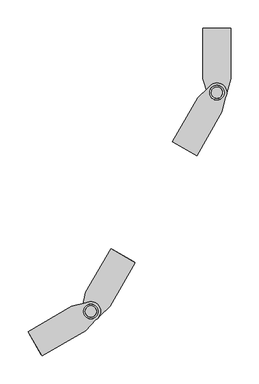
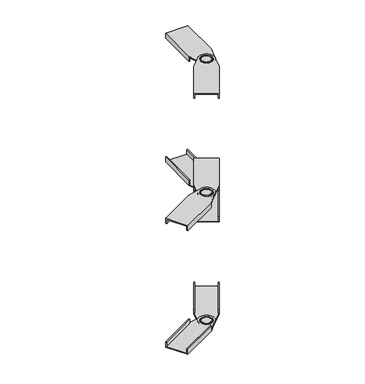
"""IFC4 building model written with IfcOpenShell, lengths in millimetres: cable carrier fitting geometry, BAKS_LD_BEND_Adjustable vertical bend_LPD : LPDC_H45."""

from ifc_helpers import new_model, si_unit, frame, origin, place, context, project, spatial, polyline, circle_curve, source, transform, mapped, element, save
from ifc_brep_helpers import plane_surface, cylinder_surface, revolved_surface, advanced_brep


def cable_carrier_fitting_33a5f9b6(model_context):
    return source(origin(), model_context, "Body", "AdvancedBrep", [
        advanced_brep(
        [(-79.1506351, 527.6185103, -152.0), (-34.1506351, 605.5607966, -152.0), (-15.1554446, 623.4614317, -152.0), (15.1554446, 605.9614317, -152.0), (9.1506351, 580.5607966, -152.0), (-35.8493649, 502.6185103, -152.0), (6.5, 625.969762, -152.0), (-6.5, 603.4531015, -152.0), (9.1506351, 580.5607966, -150.0), (15.1554446, 605.9614317, -150.0), (-15.1554446, 623.4614317, -150.0), (-34.1506351, 605.5607966, -150.0), (-31.9855716, 604.3107966, -150.0), (-76.9855716, 526.3685103, -150.0), (-38.0144284, 503.8685103, -150.0), (6.9855716, 581.8107966, -150.0), (-6.5, 603.4531015, -150.0), (6.5, 625.969762, -150.0), (-79.1506351, 527.6185103, -140.0), (-34.1506351, 605.5607966, -140.0), (9.1506351, 580.5607966, -140.0), (-35.8493649, 502.6185103, -140.0), (-38.0144284, 503.8685103, -140.0), (-76.9855716, 526.3685103, -140.0), (6.9855716, 581.8107966, -140.0), (-31.9855716, 604.3107966, -140.0)],
        [
            (0, 1),
            (1, 2),
            (2, 3, circle_curve(frame((0.0, 614.7114317, -152.0), z_axis=(0.0, 0.0, -1.0), x_axis=(-0.49999999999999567, -0.8660254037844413, 0.0)), 17.5)),
            (3, 4),
            (4, 5),
            (5, 0),
            (6, 7, circle_curve(frame((0.0, 614.7114317, -152.0), z_axis=(0.0, 0.0, 1.0), x_axis=(-0.49999999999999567, -0.8660254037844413, 0.0)), 13.0)),
            (7, 6, circle_curve(frame((0.0, 614.7114317, -152.0), z_axis=(0.0, 0.0, 1.0), x_axis=(-0.49999999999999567, -0.8660254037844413, 0.0)), 13.0)),
            (8, 9),
            (9, 10, circle_curve(frame((0.0, 614.7114317, -150.0), z_axis=(0.0, 0.0, 1.0), x_axis=(-0.49999999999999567, -0.8660254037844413, 0.0)), 17.5)),
            (10, 11),
            (11, 12),
            (12, 13),
            (13, 14),
            (14, 15),
            (15, 8),
            (16, 17, circle_curve(frame((0.0, 614.7114317, -150.0), z_axis=(0.0, 0.0, -1.0), x_axis=(-0.49999999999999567, -0.8660254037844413, 0.0)), 13.0)),
            (17, 16, circle_curve(frame((0.0, 614.7114317, -150.0), z_axis=(0.0, 0.0, -1.0), x_axis=(-0.49999999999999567, -0.8660254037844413, 0.0)), 13.0)),
            (0, 18),
            (18, 19),
            (19, 11),
            (11, 1),
            (4, 8),
            (8, 20),
            (20, 21),
            (21, 5),
            (21, 22),
            (22, 14),
            (13, 23),
            (23, 18),
            (6, 17),
            (16, 7),
            (10, 2),
            (9, 3),
            (20, 24),
            (24, 22),
            (24, 15),
            (23, 25),
            (25, 19),
            (25, 12),
        ],
        [
            plane_surface(frame((-34.1506351, 605.5607966, -152.0), z_axis=(0.0, 0.0, -1.0000000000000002), x_axis=(0.49999999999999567, 0.8660254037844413, 0.0))),
            plane_surface(frame((-34.1506351, 605.5607966, -150.0), z_axis=(0.0, 0.0, 1.0000000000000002), x_axis=(-0.49999999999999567, -0.8660254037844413, 0.0))),
            plane_surface(frame((-79.1506351, 527.6185103, -152.0), z_axis=(-0.8660254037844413, 0.49999999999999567, 0.0), x_axis=(0.0, 0.0, 1.0))),
            plane_surface(frame((9.1506351, 580.5607966, -152.0), z_axis=(0.8660254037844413, -0.49999999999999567, 0.0), x_axis=(0.0, 0.0, 1.0))),
            plane_surface(frame((-35.8493649, 502.6185103, -152.0), z_axis=(-0.49999999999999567, -0.8660254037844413, 0.0), x_axis=(0.0, 0.0, 1.0))),
            revolved_surface(polyline([(-6.499999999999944, 603.4531014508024, -152.0), (-6.499999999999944, 603.4531014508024, -150.0)]), (0.0, 614.7114317, -150.0), (0.0, 0.0, -1.0)),
            plane_surface(frame((-34.1506351, 605.5607966, -152.0), z_axis=(-0.685827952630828, 0.7277637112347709, 0.0), x_axis=(0.0, 0.0, 1.0))),
            cylinder_surface(frame((0.0, 614.7114317, -150.0), z_axis=(0.0, 0.0, -1.0), x_axis=(-0.49999999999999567, -0.8660254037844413, 0.0)), 17.5),
            plane_surface(frame((15.1554446, 605.9614317, -152.0), z_axis=(0.9731758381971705, -0.23006257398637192, 0.0), x_axis=(0.0, 0.0, 1.0))),
            plane_surface(frame((6.9855716, 581.8107966, -140.0), z_axis=(0.0, 0.0, 1.0000000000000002), x_axis=(-0.49999999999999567, -0.8660254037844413, 0.0))),
            plane_surface(frame((-38.0144284, 503.8685103, -150.0), z_axis=(-0.8660254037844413, 0.49999999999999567, 0.0), x_axis=(0.0, 0.0, 1.0))),
            plane_surface(frame((6.9855716, 581.8107966, -150.0), z_axis=(0.49999999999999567, 0.8660254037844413, 0.0), x_axis=(0.0, 0.0, 1.0))),
            plane_surface(frame((-34.1506351, 605.5607966, -140.0), z_axis=(0.0, 0.0, 1.0000000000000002), x_axis=(-0.49999999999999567, -0.8660254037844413, 0.0))),
            plane_surface(frame((-34.1506351, 605.5607966, -150.0), z_axis=(0.49999999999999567, 0.8660254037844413, 0.0), x_axis=(0.0, 0.0, 1.0))),
            plane_surface(frame((-31.9855716, 604.3107966, -150.0), z_axis=(0.8660254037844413, -0.49999999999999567, 0.0), x_axis=(0.0, 0.0, 1.0))),
        ],
        [
            (0, [[1, 2, 3, 4, 5, 6], [7, 8]]),
            (1, [[9, 10, 11, 12, 13, 14, 15, 16], [17, 18]]),
            (2, [[-1, 19, 20, 21, 22]]),
            (3, [[-5, 23, 24, 25, 26]]),
            (4, [[-19, -6, -26, 27, 28, -14, 29, 30]]),
            (5, [[31, -17, 32, -7]]),
            (5, [[-31, -8, -32, -18]]),
            (6, [[-2, -22, -11, 33]]),
            (7, [[-3, -33, -10, 34]]),
            (8, [[-4, -34, -9, -23]]),
            (9, [[-27, -25, 35, 36]]),
            (10, [[-36, 37, -15, -28]]),
            (11, [[-35, -24, -16, -37]]),
            (12, [[-30, 38, 39, -20]]),
            (13, [[-39, 40, -12, -21]]),
            (14, [[-38, -29, -13, -40]]),
        ],
    ),
        advanced_brep(
        [(5.0, 623.3716857, -152.0), (-5.0, 606.0511777, -152.0), (-5.0, 606.0511777, -150.0), (5.0, 623.3716857, -150.0)],
        [
            (0, 1, circle_curve(frame((0.0, 614.7114317, -152.0), z_axis=(0.0, 0.0, -1.0), x_axis=(-0.49999999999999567, -0.8660254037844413, 0.0)), 10.0)),
            (1, 0, circle_curve(frame((0.0, 614.7114317, -152.0), z_axis=(0.0, 0.0, -1.0), x_axis=(-0.49999999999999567, -0.8660254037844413, 0.0)), 10.0)),
            (2, 3, circle_curve(frame((0.0, 614.7114317, -150.0), z_axis=(0.0, 0.0, 1.0), x_axis=(-0.49999999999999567, -0.8660254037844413, 0.0)), 10.0)),
            (3, 2, circle_curve(frame((0.0, 614.7114317, -150.0), z_axis=(0.0, 0.0, 1.0), x_axis=(-0.49999999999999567, -0.8660254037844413, 0.0)), 10.0)),
            (0, 3),
            (2, 1),
        ],
        [
            plane_surface(frame((-34.1506351, 605.5607966, -152.0), z_axis=(0.0, 0.0, -1.0000000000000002), x_axis=(0.49999999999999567, 0.8660254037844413, 0.0))),
            plane_surface(frame((-34.1506351, 605.5607966, -150.0), z_axis=(0.0, 0.0, 1.0000000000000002), x_axis=(-0.49999999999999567, -0.8660254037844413, 0.0))),
            cylinder_surface(frame((0.0, 614.7114317, -150.0), z_axis=(0.0, 0.0, 1.0), x_axis=(-0.49999999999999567, -0.8660254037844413, 0.0)), 10.0),
        ],
        [
            (0, [[1, 2]]),
            (1, [[3, 4]]),
            (2, [[5, -3, 6, -1]]),
            (2, [[-5, -2, -6, -4]]),
        ],
    ),
        advanced_brep(
        [(-25.0, 729.7114317, -152.0), (25.0, 729.7114317, -152.0), (25.0, 639.7114317, -152.0), (17.5, 614.7114317, -152.0), (-17.5, 614.7114317, -152.0), (-25.0, 639.7114317, -152.0), (0.0, 601.7114317, -152.0), (0.0, 627.7114317, -152.0), (25.0, 639.7114317, -150.0), (22.5, 639.7114317, -150.0), (22.5, 729.7114317, -150.0), (-22.5, 729.7114317, -150.0), (-22.5, 639.7114317, -150.0), (-25.0, 639.7114317, -150.0), (-17.5, 614.7114317, -150.0), (17.5, 614.7114317, -150.0), (0.0, 627.7114317, -150.0), (0.0, 601.7114317, -150.0), (-25.0, 639.7114317, -140.0), (-25.0, 729.7114317, -140.0), (25.0, 729.7114317, -140.0), (25.0, 639.7114317, -140.0), (-22.5, 729.7114317, -140.0), (22.5, 729.7114317, -140.0), (22.5, 639.7114317, -140.0), (-22.5, 639.7114317, -140.0)],
        [
            (0, 1),
            (1, 2),
            (2, 3),
            (3, 4, circle_curve(frame((0.0, 614.7114317, -152.0), z_axis=(0.0, 0.0, -1.0), x_axis=(0.0, 1.0000000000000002, 0.0)), 17.5)),
            (4, 5),
            (5, 0),
            (6, 7, circle_curve(frame((0.0, 614.7114317, -152.0), z_axis=(0.0, 0.0, 1.0), x_axis=(0.0, 1.0000000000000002, 0.0)), 13.0)),
            (7, 6, circle_curve(frame((0.0, 614.7114317, -152.0), z_axis=(0.0, 0.0, 1.0), x_axis=(0.0, 1.0000000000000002, 0.0)), 13.0)),
            (8, 9),
            (9, 10),
            (10, 11),
            (11, 12),
            (12, 13),
            (13, 14),
            (14, 15, circle_curve(frame((0.0, 614.7114317, -150.0), z_axis=(0.0, 0.0, 1.0), x_axis=(0.0, 1.0000000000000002, 0.0)), 17.5)),
            (15, 8),
            (16, 17, circle_curve(frame((0.0, 614.7114317, -150.0), z_axis=(0.0, 0.0, -1.0), x_axis=(0.0, 1.0000000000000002, 0.0)), 13.0)),
            (17, 16, circle_curve(frame((0.0, 614.7114317, -150.0), z_axis=(0.0, 0.0, -1.0), x_axis=(0.0, 1.0000000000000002, 0.0)), 13.0)),
            (5, 13),
            (13, 18),
            (18, 19),
            (19, 0),
            (1, 20),
            (20, 21),
            (21, 8),
            (8, 2),
            (19, 22),
            (22, 11),
            (10, 23),
            (23, 20),
            (7, 16),
            (17, 6),
            (4, 14),
            (3, 15),
            (23, 24),
            (24, 21),
            (9, 24),
            (18, 25),
            (25, 22),
            (12, 25),
        ],
        [
            plane_surface(frame((-25.0, 639.7114317, -152.0), z_axis=(0.0, 0.0, -1.0), x_axis=(0.0, -1.0, 0.0))),
            plane_surface(frame((-25.0, 639.7114317, -150.0), z_axis=(0.0, 0.0, 1.0), x_axis=(0.0, 1.0, 0.0))),
            plane_surface(frame((-25.0, 729.7114317, -152.0), z_axis=(-1.0, 0.0, 0.0), x_axis=(0.0, 0.0, 1.0))),
            plane_surface(frame((25.0, 639.7114317, -152.0), z_axis=(1.0, 0.0, 0.0), x_axis=(0.0, 0.0, 1.0))),
            plane_surface(frame((25.0, 729.7114317, -152.0), z_axis=(0.0, 1.0, 0.0), x_axis=(0.0, 0.0, 1.0))),
            revolved_surface(polyline([(0.0, 627.7114317, -152.0), (0.0, 627.7114317, -150.0)]), (0.0, 614.7114317, -150.0), (0.0, 0.0, -1.0)),
            plane_surface(frame((-25.0, 639.7114317, -152.0), z_axis=(-0.957826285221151, -0.2873478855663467, 0.0), x_axis=(0.0, 0.0, 1.0))),
            cylinder_surface(frame((0.0, 614.7114317, -150.0), z_axis=(0.0, 0.0, -1.0), x_axis=(0.0, 1.0000000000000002, 0.0)), 17.5),
            plane_surface(frame((17.5, 614.7114317, -152.0), z_axis=(0.9578262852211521, -0.28734788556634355, 0.0), x_axis=(0.0, 0.0, 1.0))),
            plane_surface(frame((22.5, 639.7114317, -140.0), z_axis=(0.0, 0.0, 1.0), x_axis=(0.0, 1.0, 0.0))),
            plane_surface(frame((22.5, 729.7114317, -150.0), z_axis=(-1.0, 0.0, 0.0), x_axis=(0.0, 0.0, 1.0))),
            plane_surface(frame((22.5, 639.7114317, -150.0), z_axis=(0.0, -1.0, 0.0), x_axis=(0.0, 0.0, 1.0))),
            plane_surface(frame((-25.0, 639.7114317, -140.0), z_axis=(0.0, 0.0, 1.0), x_axis=(0.0, 1.0, 0.0))),
            plane_surface(frame((-25.0, 639.7114317, -150.0), z_axis=(0.0, -1.0, 0.0), x_axis=(0.0, 0.0, 1.0))),
            plane_surface(frame((-22.5, 639.7114317, -150.0), z_axis=(1.0, 0.0, 0.0), x_axis=(0.0, 0.0, 1.0))),
        ],
        [
            (0, [[1, 2, 3, 4, 5, 6], [7, 8]]),
            (1, [[9, 10, 11, 12, 13, 14, 15, 16], [17, 18]]),
            (2, [[19, 20, 21, 22, -6]]),
            (3, [[23, 24, 25, 26, -2]]),
            (4, [[27, 28, -11, 29, 30, -23, -1, -22]]),
            (5, [[-8, 31, -18, 32]]),
            (5, [[-17, -31, -7, -32]]),
            (6, [[33, -14, -19, -5]]),
            (7, [[34, -15, -33, -4]]),
            (8, [[-26, -16, -34, -3]]),
            (9, [[35, 36, -24, -30]]),
            (10, [[-29, -10, 37, -35]]),
            (11, [[-37, -9, -25, -36]]),
            (12, [[-21, 38, 39, -27]]),
            (13, [[-20, -13, 40, -38]]),
            (14, [[-40, -12, -28, -39]]),
        ],
    ),
        advanced_brep(
        [(0.0, 604.7114317, -152.0), (0.0, 624.7114317, -152.0), (0.0, 624.7114317, -150.0), (0.0, 604.7114317, -150.0)],
        [
            (0, 1, circle_curve(frame((0.0, 614.7114317, -152.0), z_axis=(0.0, 0.0, -1.0), x_axis=(0.0, 1.0000000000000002, 0.0)), 10.0)),
            (1, 0, circle_curve(frame((0.0, 614.7114317, -152.0), z_axis=(0.0, 0.0, -1.0), x_axis=(0.0, 1.0000000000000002, 0.0)), 10.0)),
            (2, 3, circle_curve(frame((0.0, 614.7114317, -150.0), z_axis=(0.0, 0.0, 1.0), x_axis=(0.0, 1.0000000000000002, 0.0)), 10.0)),
            (3, 2, circle_curve(frame((0.0, 614.7114317, -150.0), z_axis=(0.0, 0.0, 1.0), x_axis=(0.0, 1.0000000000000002, 0.0)), 10.0)),
            (1, 2),
            (3, 0),
        ],
        [
            plane_surface(frame((-25.0, 639.7114317, -152.0), z_axis=(0.0, 0.0, -1.0), x_axis=(0.0, -1.0, 0.0))),
            plane_surface(frame((-25.0, 639.7114317, -150.0), z_axis=(0.0, 0.0, 1.0), x_axis=(0.0, 1.0, 0.0))),
            cylinder_surface(frame((0.0, 614.7114317, -150.0), z_axis=(0.0, 0.0, 1.0), x_axis=(0.0, 1.0000000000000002, 0.0)), 10.0),
        ],
        [
            (0, [[1, 2]]),
            (1, [[3, 4]]),
            (2, [[-2, 5, -4, 6]]),
            (2, [[-3, -5, -1, -6]]),
        ],
    ),
        advanced_brep(
        [(-79.1506351, 527.6185103, 152.0), (-35.8493649, 502.6185103, 152.0), (9.1506351, 580.5607966, 152.0), (15.1554446, 605.9614317, 152.0), (-15.1554446, 623.4614317, 152.0), (-34.1506351, 605.5607966, 152.0), (6.5, 625.969762, 152.0), (-6.5, 603.4531015, 152.0), (9.1506351, 580.5607966, 150.0), (6.9855716, 581.8107966, 150.0), (-38.0144284, 503.8685103, 150.0), (-76.9855716, 526.3685103, 150.0), (-31.9855716, 604.3107966, 150.0), (-34.1506351, 605.5607966, 150.0), (-15.1554446, 623.4614317, 150.0), (15.1554446, 605.9614317, 150.0), (-6.5, 603.4531015, 150.0), (6.5, 625.969762, 150.0), (-34.1506351, 605.5607966, 140.0), (-79.1506351, 527.6185103, 140.0), (-35.8493649, 502.6185103, 140.0), (9.1506351, 580.5607966, 140.0), (-76.9855716, 526.3685103, 140.0), (-38.0144284, 503.8685103, 140.0), (6.9855716, 581.8107966, 140.0), (-31.9855716, 604.3107966, 140.0)],
        [
            (0, 1),
            (1, 2),
            (2, 3),
            (3, 4, circle_curve(frame((0.0, 614.7114317, 152.0), z_axis=(0.0, 0.0, 1.0), x_axis=(-0.4999999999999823, -0.8660254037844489, 0.0)), 17.5)),
            (4, 5),
            (5, 0),
            (6, 7, circle_curve(frame((0.0, 614.7114317, 152.0), z_axis=(0.0, 0.0, -1.0), x_axis=(-0.4999999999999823, -0.8660254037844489, 0.0)), 13.0)),
            (7, 6, circle_curve(frame((0.0, 614.7114317, 152.0), z_axis=(0.0, 0.0, -1.0), x_axis=(-0.4999999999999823, -0.8660254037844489, 0.0)), 13.0)),
            (8, 9),
            (9, 10),
            (10, 11),
            (11, 12),
            (12, 13),
            (13, 14),
            (14, 15, circle_curve(frame((0.0, 614.7114317, 150.0), z_axis=(0.0, 0.0, -1.0), x_axis=(-0.4999999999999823, -0.8660254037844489, 0.0)), 17.5)),
            (15, 8),
            (16, 17, circle_curve(frame((0.0, 614.7114317, 150.0), z_axis=(0.0, 0.0, 1.0), x_axis=(-0.4999999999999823, -0.8660254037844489, 0.0)), 13.0)),
            (17, 16, circle_curve(frame((0.0, 614.7114317, 150.0), z_axis=(0.0, 0.0, 1.0), x_axis=(-0.4999999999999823, -0.8660254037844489, 0.0)), 13.0)),
            (5, 13),
            (13, 18),
            (18, 19),
            (19, 0),
            (1, 20),
            (20, 21),
            (21, 8),
            (8, 2),
            (19, 22),
            (22, 11),
            (10, 23),
            (23, 20),
            (7, 16),
            (17, 6),
            (4, 14),
            (3, 15),
            (23, 24),
            (24, 21),
            (9, 24),
            (18, 25),
            (25, 22),
            (12, 25),
        ],
        [
            plane_surface(frame((-34.1506351, 605.5607966, 152.0), z_axis=(0.0, 0.0, 1.0), x_axis=(0.4999999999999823, 0.8660254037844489, 0.0))),
            plane_surface(frame((-34.1506351, 605.5607966, 150.0), z_axis=(0.0, 0.0, -1.0), x_axis=(-0.4999999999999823, -0.8660254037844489, 0.0))),
            plane_surface(frame((-79.1506351, 527.6185103, 152.0), z_axis=(-0.8660254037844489, 0.4999999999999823, 0.0), x_axis=(0.0, 0.0, -1.0))),
            plane_surface(frame((9.1506351, 580.5607966, 152.0), z_axis=(0.8660254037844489, -0.4999999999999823, 0.0), x_axis=(0.0, 0.0, -1.0))),
            plane_surface(frame((-35.8493649, 502.6185103, 152.0), z_axis=(-0.4999999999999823, -0.8660254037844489, 0.0), x_axis=(0.0, 0.0, -1.0))),
            revolved_surface(polyline([(-6.49999999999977, 603.4531014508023, 152.0), (-6.49999999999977, 603.4531014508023, 150.0)]), (0.0, 614.7114317, 150.0), (0.0, 0.0, 1.0)),
            plane_surface(frame((-34.1506351, 605.5607966, 152.0), z_axis=(-0.6858279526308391, 0.7277637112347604, 0.0), x_axis=(0.0, 0.0, -1.0))),
            cylinder_surface(frame((0.0, 614.7114317, 150.0), z_axis=(0.0, 0.0, 1.0), x_axis=(-0.4999999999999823, -0.8660254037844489, 0.0)), 17.5),
            plane_surface(frame((15.1554446, 605.9614317, 152.0), z_axis=(0.973175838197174, -0.2300625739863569, 0.0), x_axis=(0.0, 0.0, -1.0))),
            plane_surface(frame((6.9855716, 581.8107966, 140.0), z_axis=(0.0, 0.0, -1.0), x_axis=(-0.4999999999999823, -0.8660254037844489, 0.0))),
            plane_surface(frame((-38.0144284, 503.8685103, 150.0), z_axis=(-0.8660254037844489, 0.4999999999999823, 0.0), x_axis=(0.0, 0.0, -1.0))),
            plane_surface(frame((6.9855716, 581.8107966, 150.0), z_axis=(0.4999999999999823, 0.8660254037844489, 0.0), x_axis=(0.0, 0.0, -1.0))),
            plane_surface(frame((-34.1506351, 605.5607966, 140.0), z_axis=(0.0, 0.0, -1.0), x_axis=(-0.4999999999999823, -0.8660254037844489, 0.0))),
            plane_surface(frame((-34.1506351, 605.5607966, 150.0), z_axis=(0.4999999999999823, 0.8660254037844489, 0.0), x_axis=(0.0, 0.0, -1.0))),
            plane_surface(frame((-31.9855716, 604.3107966, 150.0), z_axis=(0.8660254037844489, -0.4999999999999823, 0.0), x_axis=(0.0, 0.0, -1.0))),
        ],
        [
            (0, [[1, 2, 3, 4, 5, 6], [7, 8]]),
            (1, [[9, 10, 11, 12, 13, 14, 15, 16], [17, 18]]),
            (2, [[19, 20, 21, 22, -6]]),
            (3, [[23, 24, 25, 26, -2]]),
            (4, [[27, 28, -11, 29, 30, -23, -1, -22]]),
            (5, [[-8, 31, -18, 32]]),
            (5, [[-17, -31, -7, -32]]),
            (6, [[33, -14, -19, -5]]),
            (7, [[34, -15, -33, -4]]),
            (8, [[-26, -16, -34, -3]]),
            (9, [[35, 36, -24, -30]]),
            (10, [[-29, -10, 37, -35]]),
            (11, [[-37, -9, -25, -36]]),
            (12, [[-21, 38, 39, -27]]),
            (13, [[-20, -13, 40, -38]]),
            (14, [[-40, -12, -28, -39]]),
        ],
    ),
        advanced_brep(
        [(5.0, 623.3716857, 152.0), (-5.0, 606.0511777, 152.0), (-5.0, 606.0511777, 150.0), (5.0, 623.3716857, 150.0)],
        [
            (0, 1, circle_curve(frame((0.0, 614.7114317, 152.0), z_axis=(0.0, 0.0, 1.0), x_axis=(-0.4999999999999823, -0.8660254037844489, 0.0)), 10.0)),
            (1, 0, circle_curve(frame((0.0, 614.7114317, 152.0), z_axis=(0.0, 0.0, 1.0), x_axis=(-0.4999999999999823, -0.8660254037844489, 0.0)), 10.0)),
            (2, 3, circle_curve(frame((0.0, 614.7114317, 150.0), z_axis=(0.0, 0.0, -1.0), x_axis=(-0.4999999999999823, -0.8660254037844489, 0.0)), 10.0)),
            (3, 2, circle_curve(frame((0.0, 614.7114317, 150.0), z_axis=(0.0, 0.0, -1.0), x_axis=(-0.4999999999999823, -0.8660254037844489, 0.0)), 10.0)),
            (1, 2),
            (3, 0),
        ],
        [
            plane_surface(frame((-34.1506351, 605.5607966, 152.0), z_axis=(0.0, 0.0, 1.0), x_axis=(0.4999999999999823, 0.8660254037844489, 0.0))),
            plane_surface(frame((-34.1506351, 605.5607966, 150.0), z_axis=(0.0, 0.0, -1.0), x_axis=(-0.4999999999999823, -0.8660254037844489, 0.0))),
            cylinder_surface(frame((0.0, 614.7114317, 150.0), z_axis=(0.0, 0.0, -1.0), x_axis=(-0.4999999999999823, -0.8660254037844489, 0.0)), 10.0),
        ],
        [
            (0, [[1, 2]]),
            (1, [[3, 4]]),
            (2, [[-2, 5, -4, 6]]),
            (2, [[-3, -5, -1, -6]]),
        ],
    ),
        advanced_brep(
        [(-25.0, 729.7114317, 152.0), (-25.0, 639.7114317, 152.0), (-17.5, 614.7114317, 152.0), (17.5, 614.7114317, 152.0), (25.0, 639.7114317, 152.0), (25.0, 729.7114317, 152.0), (0.0, 601.7114317, 152.0), (0.0, 627.7114317, 152.0), (25.0, 639.7114317, 150.0), (17.5, 614.7114317, 150.0), (-17.5, 614.7114317, 150.0), (-25.0, 639.7114317, 150.0), (-22.5, 639.7114317, 150.0), (-22.5, 729.7114317, 150.0), (22.5, 729.7114317, 150.0), (22.5, 639.7114317, 150.0), (0.0, 627.7114317, 150.0), (0.0, 601.7114317, 150.0), (-25.0, 729.7114317, 140.0), (-25.0, 639.7114317, 140.0), (25.0, 639.7114317, 140.0), (25.0, 729.7114317, 140.0), (22.5, 729.7114317, 140.0), (-22.5, 729.7114317, 140.0), (22.5, 639.7114317, 140.0), (-22.5, 639.7114317, 140.0)],
        [
            (0, 1),
            (1, 2),
            (2, 3, circle_curve(frame((0.0, 614.7114317, 152.0), z_axis=(0.0, 0.0, 1.0), x_axis=(0.0, 1.0, 0.0)), 17.5)),
            (3, 4),
            (4, 5),
            (5, 0),
            (6, 7, circle_curve(frame((0.0, 614.7114317, 152.0), z_axis=(0.0, 0.0, -1.0), x_axis=(0.0, 1.0, 0.0)), 13.0)),
            (7, 6, circle_curve(frame((0.0, 614.7114317, 152.0), z_axis=(0.0, 0.0, -1.0), x_axis=(0.0, 1.0, 0.0)), 13.0)),
            (8, 9),
            (9, 10, circle_curve(frame((0.0, 614.7114317, 150.0), z_axis=(0.0, 0.0, -1.0), x_axis=(0.0, 1.0, 0.0)), 17.5)),
            (10, 11),
            (11, 12),
            (12, 13),
            (13, 14),
            (14, 15),
            (15, 8),
            (16, 17, circle_curve(frame((0.0, 614.7114317, 150.0), z_axis=(0.0, 0.0, 1.0), x_axis=(0.0, 1.0, 0.0)), 13.0)),
            (17, 16, circle_curve(frame((0.0, 614.7114317, 150.0), z_axis=(0.0, 0.0, 1.0), x_axis=(0.0, 1.0, 0.0)), 13.0)),
            (0, 18),
            (18, 19),
            (19, 11),
            (11, 1),
            (4, 8),
            (8, 20),
            (20, 21),
            (21, 5),
            (21, 22),
            (22, 14),
            (13, 23),
            (23, 18),
            (6, 17),
            (16, 7),
            (10, 2),
            (9, 3),
            (20, 24),
            (24, 22),
            (24, 15),
            (23, 25),
            (25, 19),
            (25, 12),
        ],
        [
            plane_surface(frame((-25.0, 639.7114317, 152.0), z_axis=(0.0, 0.0, 1.0), x_axis=(0.0, -1.0, 0.0))),
            plane_surface(frame((-25.0, 639.7114317, 150.0), z_axis=(0.0, 0.0, -1.0), x_axis=(0.0, 1.0, 0.0))),
            plane_surface(frame((-25.0, 729.7114317, 152.0), z_axis=(-1.0, 0.0, 0.0), x_axis=(0.0, 0.0, -1.0))),
            plane_surface(frame((25.0, 639.7114317, 152.0), z_axis=(1.0, 0.0, 0.0), x_axis=(0.0, 0.0, -1.0))),
            plane_surface(frame((25.0, 729.7114317, 152.0), z_axis=(0.0, 1.0, 0.0), x_axis=(0.0, 0.0, -1.0))),
            revolved_surface(polyline([(0.0, 627.7114317, 152.0), (0.0, 627.7114317, 150.0)]), (0.0, 614.7114317, 150.0), (0.0, 0.0, 1.0)),
            plane_surface(frame((-25.0, 639.7114317, 152.0), z_axis=(-0.9578262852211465, -0.2873478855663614, 0.0), x_axis=(0.0, 0.0, -1.0))),
            cylinder_surface(frame((0.0, 614.7114317, 150.0), z_axis=(0.0, 0.0, 1.0), x_axis=(0.0, 1.0, 0.0)), 17.5),
            plane_surface(frame((17.5, 614.7114317, 152.0), z_axis=(0.9578262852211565, -0.28734788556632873, 0.0), x_axis=(0.0, 0.0, -1.0))),
            plane_surface(frame((22.5, 639.7114317, 140.0), z_axis=(0.0, 0.0, -1.0), x_axis=(0.0, 1.0, 0.0))),
            plane_surface(frame((22.5, 729.7114317, 150.0), z_axis=(-1.0, 0.0, 0.0), x_axis=(0.0, 0.0, -1.0))),
            plane_surface(frame((22.5, 639.7114317, 150.0), z_axis=(0.0, -1.0, 0.0), x_axis=(0.0, 0.0, -1.0))),
            plane_surface(frame((-25.0, 639.7114317, 140.0), z_axis=(0.0, 0.0, -1.0), x_axis=(0.0, 1.0, 0.0))),
            plane_surface(frame((-25.0, 639.7114317, 150.0), z_axis=(0.0, -1.0, 0.0), x_axis=(0.0, 0.0, -1.0))),
            plane_surface(frame((-22.5, 639.7114317, 150.0), z_axis=(1.0, 0.0, 0.0), x_axis=(0.0, 0.0, -1.0))),
        ],
        [
            (0, [[1, 2, 3, 4, 5, 6], [7, 8]]),
            (1, [[9, 10, 11, 12, 13, 14, 15, 16], [17, 18]]),
            (2, [[-1, 19, 20, 21, 22]]),
            (3, [[-5, 23, 24, 25, 26]]),
            (4, [[-19, -6, -26, 27, 28, -14, 29, 30]]),
            (5, [[31, -17, 32, -7]]),
            (5, [[-31, -8, -32, -18]]),
            (6, [[-2, -22, -11, 33]]),
            (7, [[-3, -33, -10, 34]]),
            (8, [[-4, -34, -9, -23]]),
            (9, [[-27, -25, 35, 36]]),
            (10, [[-36, 37, -15, -28]]),
            (11, [[-35, -24, -16, -37]]),
            (12, [[-30, 38, 39, -20]]),
            (13, [[-39, 40, -12, -21]]),
            (14, [[-38, -29, -13, -40]]),
        ],
    ),
        advanced_brep(
        [(0.0, 604.7114317, 152.0), (0.0, 624.7114317, 152.0), (0.0, 624.7114317, 150.0), (0.0, 604.7114317, 150.0)],
        [
            (0, 1, circle_curve(frame((0.0, 614.7114317, 152.0), z_axis=(0.0, 0.0, 1.0), x_axis=(0.0, 1.0, 0.0)), 10.0)),
            (1, 0, circle_curve(frame((0.0, 614.7114317, 152.0), z_axis=(0.0, 0.0, 1.0), x_axis=(0.0, 1.0, 0.0)), 10.0)),
            (2, 3, circle_curve(frame((0.0, 614.7114317, 150.0), z_axis=(0.0, 0.0, -1.0), x_axis=(0.0, 1.0, 0.0)), 10.0)),
            (3, 2, circle_curve(frame((0.0, 614.7114317, 150.0), z_axis=(0.0, 0.0, -1.0), x_axis=(0.0, 1.0, 0.0)), 10.0)),
            (0, 3),
            (2, 1),
        ],
        [
            plane_surface(frame((-25.0, 639.7114317, 152.0), z_axis=(0.0, 0.0, 1.0), x_axis=(0.0, -1.0, 0.0))),
            plane_surface(frame((-25.0, 639.7114317, 150.0), z_axis=(0.0, 0.0, -1.0), x_axis=(0.0, 1.0, 0.0))),
            cylinder_surface(frame((0.0, 614.7114317, 150.0), z_axis=(0.0, 0.0, -1.0), x_axis=(0.0, 1.0, 0.0)), 10.0),
        ],
        [
            (0, [[1, 2]]),
            (1, [[3, 4]]),
            (2, [[5, -3, 6, -1]]),
            (2, [[-5, -2, -6, -4]]),
        ],
    ),
        advanced_brep(
        [(-337.0929214, 189.1506351, -152.0), (-259.1506351, 234.1506351, -152.0), (-233.75, 240.1554446, -152.0), (-216.25, 209.8445554, -152.0), (-234.1506351, 190.8493649, -152.0), (-312.0929214, 145.8493649, -152.0), (-213.7416698, 231.5, -152.0), (-236.2583302, 218.5, -152.0), (-234.1506351, 190.8493649, -150.0), (-216.25, 209.8445554, -150.0), (-233.75, 240.1554446, -150.0), (-259.1506351, 234.1506351, -150.0), (-257.9006351, 231.9855716, -150.0), (-335.8429214, 186.9855716, -150.0), (-313.3429214, 148.0144284, -150.0), (-235.4006351, 193.0144284, -150.0), (-236.2583302, 218.5, -150.0), (-213.7416698, 231.5, -150.0), (-337.0929214, 189.1506351, -140.0), (-259.1506351, 234.1506351, -140.0), (-234.1506351, 190.8493649, -140.0), (-312.0929214, 145.8493649, -140.0), (-313.3429214, 148.0144284, -140.0), (-335.8429214, 186.9855716, -140.0), (-235.4006351, 193.0144284, -140.0), (-257.9006351, 231.9855716, -140.0)],
        [
            (0, 1),
            (1, 2),
            (2, 3, circle_curve(frame((-225.0, 225.0, -152.0), z_axis=(0.0, 0.0, -1.0), x_axis=(-0.8660254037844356, -0.5000000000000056, 0.0)), 17.5)),
            (3, 4),
            (4, 5),
            (5, 0),
            (6, 7, circle_curve(frame((-225.0, 225.0, -152.0), z_axis=(0.0, 0.0, 1.0), x_axis=(-0.8660254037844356, -0.5000000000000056, 0.0)), 13.0)),
            (7, 6, circle_curve(frame((-225.0, 225.0, -152.0), z_axis=(0.0, 0.0, 1.0), x_axis=(-0.8660254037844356, -0.5000000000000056, 0.0)), 13.0)),
            (8, 9),
            (9, 10, circle_curve(frame((-225.0, 225.0, -150.0), z_axis=(0.0, 0.0, 1.0), x_axis=(-0.8660254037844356, -0.5000000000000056, 0.0)), 17.5)),
            (10, 11),
            (11, 12),
            (12, 13),
            (13, 14),
            (14, 15),
            (15, 8),
            (16, 17, circle_curve(frame((-225.0, 225.0, -150.0), z_axis=(0.0, 0.0, -1.0), x_axis=(-0.8660254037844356, -0.5000000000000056, 0.0)), 13.0)),
            (17, 16, circle_curve(frame((-225.0, 225.0, -150.0), z_axis=(0.0, 0.0, -1.0), x_axis=(-0.8660254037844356, -0.5000000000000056, 0.0)), 13.0)),
            (0, 18),
            (18, 19),
            (19, 11),
            (11, 1),
            (4, 8),
            (8, 20),
            (20, 21),
            (21, 5),
            (21, 22),
            (22, 14),
            (13, 23),
            (23, 18),
            (6, 17),
            (16, 7),
            (10, 2),
            (9, 3),
            (20, 24),
            (24, 22),
            (24, 15),
            (23, 25),
            (25, 19),
            (25, 12),
        ],
        [
            plane_surface(frame((-259.1506351, 234.1506351, -152.0), z_axis=(0.0, 0.0, -1.0000000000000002), x_axis=(0.8660254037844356, 0.5000000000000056, 0.0))),
            plane_surface(frame((-259.1506351, 234.1506351, -150.0), z_axis=(0.0, 0.0, 1.0000000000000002), x_axis=(-0.8660254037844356, -0.5000000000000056, 0.0))),
            plane_surface(frame((-337.0929214, 189.1506351, -152.0), z_axis=(-0.5000000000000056, 0.8660254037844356, 0.0), x_axis=(0.0, 0.0, 1.0))),
            plane_surface(frame((-234.1506351, 190.8493649, -152.0), z_axis=(0.5000000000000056, -0.8660254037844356, 0.0), x_axis=(0.0, 0.0, 1.0))),
            plane_surface(frame((-312.0929214, 145.8493649, -152.0), z_axis=(-0.8660254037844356, -0.5000000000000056, 0.0), x_axis=(0.0, 0.0, 1.0))),
            revolved_surface(polyline([(-236.25833024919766, 218.49999999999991, -152.0), (-236.25833024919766, 218.49999999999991, -150.0)]), (-225.0, 225.0, -150.0), (0.0, 0.0, -1.0)),
            plane_surface(frame((-259.1506351, 234.1506351, -152.0), z_axis=(-0.23006257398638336, 0.9731758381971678, 0.0), x_axis=(0.0, 0.0, 1.0))),
            cylinder_surface(frame((-225.0, 225.0, -150.0), z_axis=(0.0, 0.0, -1.0), x_axis=(-0.8660254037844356, -0.5000000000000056, 0.0)), 17.5),
            plane_surface(frame((-216.25, 209.8445554, -152.0), z_axis=(0.727763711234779, -0.6858279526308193, 0.0), x_axis=(0.0, 0.0, 1.0))),
            plane_surface(frame((-235.4006351, 193.0144284, -140.0), z_axis=(0.0, 0.0, 1.0000000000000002), x_axis=(-0.8660254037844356, -0.5000000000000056, 0.0))),
            plane_surface(frame((-313.3429214, 148.0144284, -150.0), z_axis=(-0.5000000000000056, 0.8660254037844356, 0.0), x_axis=(0.0, 0.0, 1.0))),
            plane_surface(frame((-235.4006351, 193.0144284, -150.0), z_axis=(0.8660254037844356, 0.5000000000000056, 0.0), x_axis=(0.0, 0.0, 1.0))),
            plane_surface(frame((-259.1506351, 234.1506351, -140.0), z_axis=(0.0, 0.0, 1.0000000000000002), x_axis=(-0.8660254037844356, -0.5000000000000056, 0.0))),
            plane_surface(frame((-259.1506351, 234.1506351, -150.0), z_axis=(0.8660254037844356, 0.5000000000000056, 0.0), x_axis=(0.0, 0.0, 1.0))),
            plane_surface(frame((-257.9006351, 231.9855716, -150.0), z_axis=(0.5000000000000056, -0.8660254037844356, 0.0), x_axis=(0.0, 0.0, 1.0))),
        ],
        [
            (0, [[1, 2, 3, 4, 5, 6], [7, 8]]),
            (1, [[9, 10, 11, 12, 13, 14, 15, 16], [17, 18]]),
            (2, [[-1, 19, 20, 21, 22]]),
            (3, [[-5, 23, 24, 25, 26]]),
            (4, [[-19, -6, -26, 27, 28, -14, 29, 30]]),
            (5, [[31, -17, 32, -7]]),
            (5, [[-31, -8, -32, -18]]),
            (6, [[-2, -22, -11, 33]]),
            (7, [[-3, -33, -10, 34]]),
            (8, [[-4, -34, -9, -23]]),
            (9, [[-27, -25, 35, 36]]),
            (10, [[-36, 37, -15, -28]]),
            (11, [[-35, -24, -16, -37]]),
            (12, [[-30, 38, 39, -20]]),
            (13, [[-39, 40, -12, -21]]),
            (14, [[-38, -29, -13, -40]]),
        ],
    ),
        advanced_brep(
        [(-216.339746, 230.0, -152.0), (-233.660254, 220.0, -152.0), (-233.660254, 220.0, -150.0), (-216.339746, 230.0, -150.0)],
        [
            (0, 1, circle_curve(frame((-225.0, 225.0, -152.0), z_axis=(0.0, 0.0, -1.0), x_axis=(-0.8660254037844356, -0.5000000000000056, 0.0)), 10.0)),
            (1, 0, circle_curve(frame((-225.0, 225.0, -152.0), z_axis=(0.0, 0.0, -1.0), x_axis=(-0.8660254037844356, -0.5000000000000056, 0.0)), 10.0)),
            (2, 3, circle_curve(frame((-225.0, 225.0, -150.0), z_axis=(0.0, 0.0, 1.0), x_axis=(-0.8660254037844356, -0.5000000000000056, 0.0)), 10.0)),
            (3, 2, circle_curve(frame((-225.0, 225.0, -150.0), z_axis=(0.0, 0.0, 1.0), x_axis=(-0.8660254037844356, -0.5000000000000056, 0.0)), 10.0)),
            (0, 3),
            (2, 1),
        ],
        [
            plane_surface(frame((-259.1506351, 234.1506351, -152.0), z_axis=(0.0, 0.0, -1.0000000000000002), x_axis=(0.8660254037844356, 0.5000000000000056, 0.0))),
            plane_surface(frame((-259.1506351, 234.1506351, -150.0), z_axis=(0.0, 0.0, 1.0000000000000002), x_axis=(-0.8660254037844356, -0.5000000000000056, 0.0))),
            cylinder_surface(frame((-225.0, 225.0, -150.0), z_axis=(0.0, 0.0, 1.0), x_axis=(-0.8660254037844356, -0.5000000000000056, 0.0)), 10.0),
        ],
        [
            (0, [[1, 2]]),
            (1, [[3, 4]]),
            (2, [[5, -3, 6, -1]]),
            (2, [[-5, -2, -6, -4]]),
        ],
    ),
        advanced_brep(
        [(-189.1506351, 337.0929214, -152.0), (-145.8493649, 312.0929214, -152.0), (-190.8493649, 234.1506351, -152.0), (-209.8445554, 216.25, -152.0), (-240.1554446, 233.75, -152.0), (-234.1506351, 259.1506351, -152.0), (-231.5, 213.7416698, -152.0), (-218.5, 236.2583302, -152.0), (-190.8493649, 234.1506351, -150.0), (-193.0144284, 235.4006351, -150.0), (-148.0144284, 313.3429214, -150.0), (-186.9855716, 335.8429214, -150.0), (-231.9855716, 257.9006351, -150.0), (-234.1506351, 259.1506351, -150.0), (-240.1554446, 233.75, -150.0), (-209.8445554, 216.25, -150.0), (-218.5, 236.2583302, -150.0), (-231.5, 213.7416698, -150.0), (-234.1506351, 259.1506351, -140.0), (-189.1506351, 337.0929214, -140.0), (-145.8493649, 312.0929214, -140.0), (-190.8493649, 234.1506351, -140.0), (-186.9855716, 335.8429214, -140.0), (-148.0144284, 313.3429214, -140.0), (-193.0144284, 235.4006351, -140.0), (-231.9855716, 257.9006351, -140.0)],
        [
            (0, 1),
            (1, 2),
            (2, 3),
            (3, 4, circle_curve(frame((-225.0, 225.0, -152.0), z_axis=(0.0, 0.0, -1.0), x_axis=(0.49999999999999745, 0.8660254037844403, 0.0)), 17.5)),
            (4, 5),
            (5, 0),
            (6, 7, circle_curve(frame((-225.0, 225.0, -152.0), z_axis=(0.0, 0.0, 1.0), x_axis=(0.49999999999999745, 0.8660254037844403, 0.0)), 13.0)),
            (7, 6, circle_curve(frame((-225.0, 225.0, -152.0), z_axis=(0.0, 0.0, 1.0), x_axis=(0.49999999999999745, 0.8660254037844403, 0.0)), 13.0)),
            (8, 9),
            (9, 10),
            (10, 11),
            (11, 12),
            (12, 13),
            (13, 14),
            (14, 15, circle_curve(frame((-225.0, 225.0, -150.0), z_axis=(0.0, 0.0, 1.0), x_axis=(0.49999999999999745, 0.8660254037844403, 0.0)), 17.5)),
            (15, 8),
            (16, 17, circle_curve(frame((-225.0, 225.0, -150.0), z_axis=(0.0, 0.0, -1.0), x_axis=(0.49999999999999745, 0.8660254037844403, 0.0)), 13.0)),
            (17, 16, circle_curve(frame((-225.0, 225.0, -150.0), z_axis=(0.0, 0.0, -1.0), x_axis=(0.49999999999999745, 0.8660254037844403, 0.0)), 13.0)),
            (5, 13),
            (13, 18),
            (18, 19),
            (19, 0),
            (1, 20),
            (20, 21),
            (21, 8),
            (8, 2),
            (19, 22),
            (22, 11),
            (10, 23),
            (23, 20),
            (7, 16),
            (17, 6),
            (4, 14),
            (3, 15),
            (23, 24),
            (24, 21),
            (9, 24),
            (18, 25),
            (25, 22),
            (12, 25),
        ],
        [
            plane_surface(frame((-234.1506351, 259.1506351, -152.0), z_axis=(0.0, 0.0, -1.0000000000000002), x_axis=(-0.49999999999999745, -0.8660254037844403, 0.0))),
            plane_surface(frame((-234.1506351, 259.1506351, -150.0), z_axis=(0.0, 0.0, 1.0000000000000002), x_axis=(0.49999999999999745, 0.8660254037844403, 0.0))),
            plane_surface(frame((-189.1506351, 337.0929214, -152.0), z_axis=(-0.8660254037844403, 0.49999999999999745, 0.0), x_axis=(0.0, 0.0, 1.0))),
            plane_surface(frame((-190.8493649, 234.1506351, -152.0), z_axis=(0.8660254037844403, -0.49999999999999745, 0.0), x_axis=(0.0, 0.0, 1.0))),
            plane_surface(frame((-145.8493649, 312.0929214, -152.0), z_axis=(0.49999999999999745, 0.8660254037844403, 0.0), x_axis=(0.0, 0.0, 1.0))),
            revolved_surface(polyline([(-218.50000000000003, 236.2583302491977, -152.0), (-218.50000000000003, 236.2583302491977, -150.0)]), (-225.0, 225.0, -150.0), (0.0, 0.0, -1.0)),
            plane_surface(frame((-234.1506351, 259.1506351, -152.0), z_axis=(-0.9731758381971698, 0.23006257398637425, 0.0), x_axis=(0.0, 0.0, 1.0))),
            cylinder_surface(frame((-225.0, 225.0, -150.0), z_axis=(0.0, 0.0, -1.0), x_axis=(0.49999999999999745, 0.8660254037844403, 0.0)), 17.5),
            plane_surface(frame((-209.8445554, 216.25, -152.0), z_axis=(0.6858279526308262, -0.7277637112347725, 0.0), x_axis=(0.0, 0.0, 1.0))),
            plane_surface(frame((-193.0144284, 235.4006351, -140.0), z_axis=(0.0, 0.0, 1.0000000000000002), x_axis=(0.49999999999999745, 0.8660254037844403, 0.0))),
            plane_surface(frame((-148.0144284, 313.3429214, -150.0), z_axis=(-0.8660254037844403, 0.49999999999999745, 0.0), x_axis=(0.0, 0.0, 1.0))),
            plane_surface(frame((-193.0144284, 235.4006351, -150.0), z_axis=(-0.49999999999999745, -0.8660254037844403, 0.0), x_axis=(0.0, 0.0, 1.0))),
            plane_surface(frame((-234.1506351, 259.1506351, -140.0), z_axis=(0.0, 0.0, 1.0000000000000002), x_axis=(0.49999999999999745, 0.8660254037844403, 0.0))),
            plane_surface(frame((-234.1506351, 259.1506351, -150.0), z_axis=(-0.49999999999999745, -0.8660254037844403, 0.0), x_axis=(0.0, 0.0, 1.0))),
            plane_surface(frame((-231.9855716, 257.9006351, -150.0), z_axis=(0.8660254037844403, -0.49999999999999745, 0.0), x_axis=(0.0, 0.0, 1.0))),
        ],
        [
            (0, [[1, 2, 3, 4, 5, 6], [7, 8]]),
            (1, [[9, 10, 11, 12, 13, 14, 15, 16], [17, 18]]),
            (2, [[19, 20, 21, 22, -6]]),
            (3, [[23, 24, 25, 26, -2]]),
            (4, [[27, 28, -11, 29, 30, -23, -1, -22]]),
            (5, [[-8, 31, -18, 32]]),
            (5, [[-17, -31, -7, -32]]),
            (6, [[33, -14, -19, -5]]),
            (7, [[34, -15, -33, -4]]),
            (8, [[-26, -16, -34, -3]]),
            (9, [[35, 36, -24, -30]]),
            (10, [[-29, -10, 37, -35]]),
            (11, [[-37, -9, -25, -36]]),
            (12, [[-21, 38, 39, -27]]),
            (13, [[-20, -13, 40, -38]]),
            (14, [[-40, -12, -28, -39]]),
        ],
    ),
        advanced_brep(
        [(-230.0, 216.339746, -152.0), (-220.0, 233.660254, -152.0), (-220.0, 233.660254, -150.0), (-230.0, 216.339746, -150.0)],
        [
            (0, 1, circle_curve(frame((-225.0, 225.0, -152.0), z_axis=(0.0, 0.0, -1.0), x_axis=(0.49999999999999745, 0.8660254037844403, 0.0)), 10.0)),
            (1, 0, circle_curve(frame((-225.0, 225.0, -152.0), z_axis=(0.0, 0.0, -1.0), x_axis=(0.49999999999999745, 0.8660254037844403, 0.0)), 10.0)),
            (2, 3, circle_curve(frame((-225.0, 225.0, -150.0), z_axis=(0.0, 0.0, 1.0), x_axis=(0.49999999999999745, 0.8660254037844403, 0.0)), 10.0)),
            (3, 2, circle_curve(frame((-225.0, 225.0, -150.0), z_axis=(0.0, 0.0, 1.0), x_axis=(0.49999999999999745, 0.8660254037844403, 0.0)), 10.0)),
            (1, 2),
            (3, 0),
        ],
        [
            plane_surface(frame((-234.1506351, 259.1506351, -152.0), z_axis=(0.0, 0.0, -1.0000000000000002), x_axis=(-0.49999999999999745, -0.8660254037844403, 0.0))),
            plane_surface(frame((-234.1506351, 259.1506351, -150.0), z_axis=(0.0, 0.0, 1.0000000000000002), x_axis=(0.49999999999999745, 0.8660254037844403, 0.0))),
            cylinder_surface(frame((-225.0, 225.0, -150.0), z_axis=(0.0, 0.0, 1.0), x_axis=(0.49999999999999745, 0.8660254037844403, 0.0)), 10.0),
        ],
        [
            (0, [[1, 2]]),
            (1, [[3, 4]]),
            (2, [[-2, 5, -4, 6]]),
            (2, [[-3, -5, -1, -6]]),
        ],
    ),
        advanced_brep(
        [(-337.0929214, 189.1506351, 152.0), (-312.0929214, 145.8493649, 152.0), (-234.1506351, 190.8493649, 152.0), (-216.25, 209.8445554, 152.0), (-233.75, 240.1554446, 152.0), (-259.1506351, 234.1506351, 152.0), (-213.7416698, 231.5, 152.0), (-236.2583302, 218.5, 152.0), (-234.1506351, 190.8493649, 150.0), (-235.4006351, 193.0144284, 150.0), (-313.3429214, 148.0144284, 150.0), (-335.8429214, 186.9855716, 150.0), (-257.9006351, 231.9855716, 150.0), (-259.1506351, 234.1506351, 150.0), (-233.75, 240.1554446, 150.0), (-216.25, 209.8445554, 150.0), (-236.2583302, 218.5, 150.0), (-213.7416698, 231.5, 150.0), (-259.1506351, 234.1506351, 140.0), (-337.0929214, 189.1506351, 140.0), (-312.0929214, 145.8493649, 140.0), (-234.1506351, 190.8493649, 140.0), (-335.8429214, 186.9855716, 140.0), (-313.3429214, 148.0144284, 140.0), (-235.4006351, 193.0144284, 140.0), (-257.9006351, 231.9855716, 140.0)],
        [
            (0, 1),
            (1, 2),
            (2, 3),
            (3, 4, circle_curve(frame((-225.0, 225.0, 152.0), z_axis=(0.0, 0.0, 1.0), x_axis=(-0.8660254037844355, -0.5000000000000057, 0.0)), 17.5)),
            (4, 5),
            (5, 0),
            (6, 7, circle_curve(frame((-225.0, 225.0, 152.0), z_axis=(0.0, 0.0, -1.0), x_axis=(-0.8660254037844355, -0.5000000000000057, 0.0)), 13.0)),
            (7, 6, circle_curve(frame((-225.0, 225.0, 152.0), z_axis=(0.0, 0.0, -1.0), x_axis=(-0.8660254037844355, -0.5000000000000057, 0.0)), 13.0)),
            (8, 9),
            (9, 10),
            (10, 11),
            (11, 12),
            (12, 13),
            (13, 14),
            (14, 15, circle_curve(frame((-225.0, 225.0, 150.0), z_axis=(0.0, 0.0, -1.0), x_axis=(-0.8660254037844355, -0.5000000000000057, 0.0)), 17.5)),
            (15, 8),
            (16, 17, circle_curve(frame((-225.0, 225.0, 150.0), z_axis=(0.0, 0.0, 1.0), x_axis=(-0.8660254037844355, -0.5000000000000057, 0.0)), 13.0)),
            (17, 16, circle_curve(frame((-225.0, 225.0, 150.0), z_axis=(0.0, 0.0, 1.0), x_axis=(-0.8660254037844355, -0.5000000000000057, 0.0)), 13.0)),
            (5, 13),
            (13, 18),
            (18, 19),
            (19, 0),
            (1, 20),
            (20, 21),
            (21, 8),
            (8, 2),
            (19, 22),
            (22, 11),
            (10, 23),
            (23, 20),
            (7, 16),
            (17, 6),
            (4, 14),
            (3, 15),
            (23, 24),
            (24, 21),
            (9, 24),
            (18, 25),
            (25, 22),
            (12, 25),
        ],
        [
            plane_surface(frame((-259.1506351, 234.1506351, 152.0), z_axis=(0.0, 0.0, 1.0000000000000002), x_axis=(0.8660254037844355, 0.5000000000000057, 0.0))),
            plane_surface(frame((-259.1506351, 234.1506351, 150.0), z_axis=(0.0, 0.0, -1.0000000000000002), x_axis=(-0.8660254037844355, -0.5000000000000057, 0.0))),
            plane_surface(frame((-337.0929214, 189.1506351, 152.0), z_axis=(-0.5000000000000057, 0.8660254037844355, 0.0), x_axis=(0.0, 0.0, -1.0))),
            plane_surface(frame((-234.1506351, 190.8493649, 152.0), z_axis=(0.5000000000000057, -0.8660254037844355, 0.0), x_axis=(0.0, 0.0, -1.0))),
            plane_surface(frame((-312.0929214, 145.8493649, 152.0), z_axis=(-0.8660254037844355, -0.5000000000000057, 0.0), x_axis=(0.0, 0.0, -1.0))),
            revolved_surface(polyline([(-236.25833024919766, 218.49999999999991, 152.0), (-236.25833024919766, 218.49999999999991, 150.0)]), (-225.0, 225.0, 150.0), (0.0, 0.0, 1.0)),
            plane_surface(frame((-259.1506351, 234.1506351, 152.0), z_axis=(-0.2300625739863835, 0.9731758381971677, 0.0), x_axis=(0.0, 0.0, -1.0))),
            cylinder_surface(frame((-225.0, 225.0, 150.0), z_axis=(0.0, 0.0, 1.0), x_axis=(-0.8660254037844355, -0.5000000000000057, 0.0)), 17.5),
            plane_surface(frame((-216.25, 209.8445554, 152.0), z_axis=(0.727763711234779, -0.6858279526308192, 0.0), x_axis=(0.0, 0.0, -1.0))),
            plane_surface(frame((-235.4006351, 193.0144284, 140.0), z_axis=(0.0, 0.0, -1.0000000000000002), x_axis=(-0.8660254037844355, -0.5000000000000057, 0.0))),
            plane_surface(frame((-313.3429214, 148.0144284, 150.0), z_axis=(-0.5000000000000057, 0.8660254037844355, 0.0), x_axis=(0.0, 0.0, -1.0))),
            plane_surface(frame((-235.4006351, 193.0144284, 150.0), z_axis=(0.8660254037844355, 0.5000000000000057, 0.0), x_axis=(0.0, 0.0, -1.0))),
            plane_surface(frame((-259.1506351, 234.1506351, 140.0), z_axis=(0.0, 0.0, -1.0000000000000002), x_axis=(-0.8660254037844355, -0.5000000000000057, 0.0))),
            plane_surface(frame((-259.1506351, 234.1506351, 150.0), z_axis=(0.8660254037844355, 0.5000000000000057, 0.0), x_axis=(0.0, 0.0, -1.0))),
            plane_surface(frame((-257.9006351, 231.9855716, 150.0), z_axis=(0.5000000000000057, -0.8660254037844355, 0.0), x_axis=(0.0, 0.0, -1.0))),
        ],
        [
            (0, [[1, 2, 3, 4, 5, 6], [7, 8]]),
            (1, [[9, 10, 11, 12, 13, 14, 15, 16], [17, 18]]),
            (2, [[19, 20, 21, 22, -6]]),
            (3, [[23, 24, 25, 26, -2]]),
            (4, [[27, 28, -11, 29, 30, -23, -1, -22]]),
            (5, [[-8, 31, -18, 32]]),
            (5, [[-17, -31, -7, -32]]),
            (6, [[33, -14, -19, -5]]),
            (7, [[34, -15, -33, -4]]),
            (8, [[-26, -16, -34, -3]]),
            (9, [[35, 36, -24, -30]]),
            (10, [[-29, -10, 37, -35]]),
            (11, [[-37, -9, -25, -36]]),
            (12, [[-21, 38, 39, -27]]),
            (13, [[-20, -13, 40, -38]]),
            (14, [[-40, -12, -28, -39]]),
        ],
    ),
        advanced_brep(
        [(-216.339746, 230.0, 152.0), (-233.660254, 220.0, 152.0), (-233.660254, 220.0, 150.0), (-216.339746, 230.0, 150.0)],
        [
            (0, 1, circle_curve(frame((-225.0, 225.0, 152.0), z_axis=(0.0, 0.0, 1.0), x_axis=(-0.8660254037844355, -0.5000000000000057, 0.0)), 10.0)),
            (1, 0, circle_curve(frame((-225.0, 225.0, 152.0), z_axis=(0.0, 0.0, 1.0), x_axis=(-0.8660254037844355, -0.5000000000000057, 0.0)), 10.0)),
            (2, 3, circle_curve(frame((-225.0, 225.0, 150.0), z_axis=(0.0, 0.0, -1.0), x_axis=(-0.8660254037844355, -0.5000000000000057, 0.0)), 10.0)),
            (3, 2, circle_curve(frame((-225.0, 225.0, 150.0), z_axis=(0.0, 0.0, -1.0), x_axis=(-0.8660254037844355, -0.5000000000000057, 0.0)), 10.0)),
            (1, 2),
            (3, 0),
        ],
        [
            plane_surface(frame((-259.1506351, 234.1506351, 152.0), z_axis=(0.0, 0.0, 1.0000000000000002), x_axis=(0.8660254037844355, 0.5000000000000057, 0.0))),
            plane_surface(frame((-259.1506351, 234.1506351, 150.0), z_axis=(0.0, 0.0, -1.0000000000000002), x_axis=(-0.8660254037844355, -0.5000000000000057, 0.0))),
            cylinder_surface(frame((-225.0, 225.0, 150.0), z_axis=(0.0, 0.0, -1.0), x_axis=(-0.8660254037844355, -0.5000000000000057, 0.0)), 10.0),
        ],
        [
            (0, [[1, 2]]),
            (1, [[3, 4]]),
            (2, [[-2, 5, -4, 6]]),
            (2, [[-3, -5, -1, -6]]),
        ],
    ),
        advanced_brep(
        [(-189.1506351, 337.0929214, 152.0), (-234.1506351, 259.1506351, 152.0), (-240.1554446, 233.75, 152.0), (-209.8445554, 216.25, 152.0), (-190.8493649, 234.1506351, 152.0), (-145.8493649, 312.0929214, 152.0), (-231.5, 213.7416698, 152.0), (-218.5, 236.2583302, 152.0), (-190.8493649, 234.1506351, 150.0), (-209.8445554, 216.25, 150.0), (-240.1554446, 233.75, 150.0), (-234.1506351, 259.1506351, 150.0), (-231.9855716, 257.9006351, 150.0), (-186.9855716, 335.8429214, 150.0), (-148.0144284, 313.3429214, 150.0), (-193.0144284, 235.4006351, 150.0), (-218.5, 236.2583302, 150.0), (-231.5, 213.7416698, 150.0), (-189.1506351, 337.0929214, 140.0), (-234.1506351, 259.1506351, 140.0), (-190.8493649, 234.1506351, 140.0), (-145.8493649, 312.0929214, 140.0), (-148.0144284, 313.3429214, 140.0), (-186.9855716, 335.8429214, 140.0), (-193.0144284, 235.4006351, 140.0), (-231.9855716, 257.9006351, 140.0)],
        [
            (0, 1),
            (1, 2),
            (2, 3, circle_curve(frame((-225.0, 225.0, 152.0), z_axis=(0.0, 0.0, 1.0), x_axis=(0.4999999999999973, 0.8660254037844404, 0.0)), 17.5)),
            (3, 4),
            (4, 5),
            (5, 0),
            (6, 7, circle_curve(frame((-225.0, 225.0, 152.0), z_axis=(0.0, 0.0, -1.0), x_axis=(0.4999999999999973, 0.8660254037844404, 0.0)), 13.0)),
            (7, 6, circle_curve(frame((-225.0, 225.0, 152.0), z_axis=(0.0, 0.0, -1.0), x_axis=(0.4999999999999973, 0.8660254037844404, 0.0)), 13.0)),
            (8, 9),
            (9, 10, circle_curve(frame((-225.0, 225.0, 150.0), z_axis=(0.0, 0.0, -1.0), x_axis=(0.4999999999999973, 0.8660254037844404, 0.0)), 17.5)),
            (10, 11),
            (11, 12),
            (12, 13),
            (13, 14),
            (14, 15),
            (15, 8),
            (16, 17, circle_curve(frame((-225.0, 225.0, 150.0), z_axis=(0.0, 0.0, 1.0), x_axis=(0.4999999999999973, 0.8660254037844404, 0.0)), 13.0)),
            (17, 16, circle_curve(frame((-225.0, 225.0, 150.0), z_axis=(0.0, 0.0, 1.0), x_axis=(0.4999999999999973, 0.8660254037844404, 0.0)), 13.0)),
            (0, 18),
            (18, 19),
            (19, 11),
            (11, 1),
            (4, 8),
            (8, 20),
            (20, 21),
            (21, 5),
            (21, 22),
            (22, 14),
            (13, 23),
            (23, 18),
            (6, 17),
            (16, 7),
            (10, 2),
            (9, 3),
            (20, 24),
            (24, 22),
            (24, 15),
            (23, 25),
            (25, 19),
            (25, 12),
        ],
        [
            plane_surface(frame((-234.1506351, 259.1506351, 152.0), z_axis=(0.0, 0.0, 1.0000000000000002), x_axis=(-0.4999999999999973, -0.8660254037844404, 0.0))),
            plane_surface(frame((-234.1506351, 259.1506351, 150.0), z_axis=(0.0, 0.0, -1.0000000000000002), x_axis=(0.4999999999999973, 0.8660254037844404, 0.0))),
            plane_surface(frame((-189.1506351, 337.0929214, 152.0), z_axis=(-0.8660254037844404, 0.4999999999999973, 0.0), x_axis=(0.0, 0.0, -1.0))),
            plane_surface(frame((-190.8493649, 234.1506351, 152.0), z_axis=(0.8660254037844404, -0.4999999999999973, 0.0), x_axis=(0.0, 0.0, -1.0))),
            plane_surface(frame((-145.8493649, 312.0929214, 152.0), z_axis=(0.4999999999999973, 0.8660254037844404, 0.0), x_axis=(0.0, 0.0, -1.0))),
            revolved_surface(polyline([(-218.50000000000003, 236.2583302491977, 152.0), (-218.50000000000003, 236.2583302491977, 150.0)]), (-225.0, 225.0, 150.0), (0.0, 0.0, 1.0)),
            plane_surface(frame((-234.1506351, 259.1506351, 152.0), z_axis=(-0.97317583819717, 0.23006257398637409, 0.0), x_axis=(0.0, 0.0, -1.0))),
            cylinder_surface(frame((-225.0, 225.0, 150.0), z_axis=(0.0, 0.0, 1.0), x_axis=(0.4999999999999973, 0.8660254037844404, 0.0)), 17.5),
            plane_surface(frame((-209.8445554, 216.25, 152.0), z_axis=(0.6858279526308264, -0.7277637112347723, 0.0), x_axis=(0.0, 0.0, -1.0))),
            plane_surface(frame((-193.0144284, 235.4006351, 140.0), z_axis=(0.0, 0.0, -1.0000000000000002), x_axis=(0.4999999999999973, 0.8660254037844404, 0.0))),
            plane_surface(frame((-148.0144284, 313.3429214, 150.0), z_axis=(-0.8660254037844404, 0.4999999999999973, 0.0), x_axis=(0.0, 0.0, -1.0))),
            plane_surface(frame((-193.0144284, 235.4006351, 150.0), z_axis=(-0.4999999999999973, -0.8660254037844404, 0.0), x_axis=(0.0, 0.0, -1.0))),
            plane_surface(frame((-234.1506351, 259.1506351, 140.0), z_axis=(0.0, 0.0, -1.0000000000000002), x_axis=(0.4999999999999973, 0.8660254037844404, 0.0))),
            plane_surface(frame((-234.1506351, 259.1506351, 150.0), z_axis=(-0.4999999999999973, -0.8660254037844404, 0.0), x_axis=(0.0, 0.0, -1.0))),
            plane_surface(frame((-231.9855716, 257.9006351, 150.0), z_axis=(0.8660254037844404, -0.4999999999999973, 0.0), x_axis=(0.0, 0.0, -1.0))),
        ],
        [
            (0, [[1, 2, 3, 4, 5, 6], [7, 8]]),
            (1, [[9, 10, 11, 12, 13, 14, 15, 16], [17, 18]]),
            (2, [[-1, 19, 20, 21, 22]]),
            (3, [[-5, 23, 24, 25, 26]]),
            (4, [[-19, -6, -26, 27, 28, -14, 29, 30]]),
            (5, [[31, -17, 32, -7]]),
            (5, [[-31, -8, -32, -18]]),
            (6, [[-2, -22, -11, 33]]),
            (7, [[-3, -33, -10, 34]]),
            (8, [[-4, -34, -9, -23]]),
            (9, [[-27, -25, 35, 36]]),
            (10, [[-36, 37, -15, -28]]),
            (11, [[-35, -24, -16, -37]]),
            (12, [[-30, 38, 39, -20]]),
            (13, [[-39, 40, -12, -21]]),
            (14, [[-38, -29, -13, -40]]),
        ],
    ),
        advanced_brep(
        [(-230.0, 216.339746, 152.0), (-220.0, 233.660254, 152.0), (-220.0, 233.660254, 150.0), (-230.0, 216.339746, 150.0)],
        [
            (0, 1, circle_curve(frame((-225.0, 225.0, 152.0), z_axis=(0.0, 0.0, 1.0), x_axis=(0.4999999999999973, 0.8660254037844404, 0.0)), 10.0)),
            (1, 0, circle_curve(frame((-225.0, 225.0, 152.0), z_axis=(0.0, 0.0, 1.0), x_axis=(0.4999999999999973, 0.8660254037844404, 0.0)), 10.0)),
            (2, 3, circle_curve(frame((-225.0, 225.0, 150.0), z_axis=(0.0, 0.0, -1.0), x_axis=(0.4999999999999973, 0.8660254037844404, 0.0)), 10.0)),
            (3, 2, circle_curve(frame((-225.0, 225.0, 150.0), z_axis=(0.0, 0.0, -1.0), x_axis=(0.4999999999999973, 0.8660254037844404, 0.0)), 10.0)),
            (0, 3),
            (2, 1),
        ],
        [
            plane_surface(frame((-234.1506351, 259.1506351, 152.0), z_axis=(0.0, 0.0, 1.0000000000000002), x_axis=(-0.4999999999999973, -0.8660254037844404, 0.0))),
            plane_surface(frame((-234.1506351, 259.1506351, 150.0), z_axis=(0.0, 0.0, -1.0000000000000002), x_axis=(0.4999999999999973, 0.8660254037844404, 0.0))),
            cylinder_surface(frame((-225.0, 225.0, 150.0), z_axis=(0.0, 0.0, -1.0), x_axis=(0.4999999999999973, 0.8660254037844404, 0.0)), 10.0),
        ],
        [
            (0, [[1, 2]]),
            (1, [[3, 4]]),
            (2, [[5, -3, 6, -1]]),
            (2, [[-5, -2, -6, -4]]),
        ],
    ),
    ])


if __name__ == "__main__":
    model = new_model("IFC4")
    model_context = context("Model", 3, world=origin())
    ifc_project = project(units=[si_unit("LENGTHUNIT", "METRE", prefix="MILLI")], contexts=[model_context])
    site = spatial("IfcSite", under=ifc_project)
    building = spatial("IfcBuilding", under=site)
    placement = place(None, origin())
    cable_carrier_fitting_shape = cable_carrier_fitting_33a5f9b6(model_context)
    element("IfcCableCarrierFitting", 1, ObjectType="BAKS_LD_BEND_Adjustable vertical bend_LPD : LPDC_H45", at=placement, inside=building, context=model_context, shape_type="MappedRepresentation", body=[
        mapped(cable_carrier_fitting_shape, transform((0.0, 0.0, 0.0), x_axis=(1.0, 0.0, 0.0), y_axis=(0.0, 1.0, 0.0), z_axis=(0.0, 0.0, 1.0))),
    ])
    save(model, "model.ifc")
